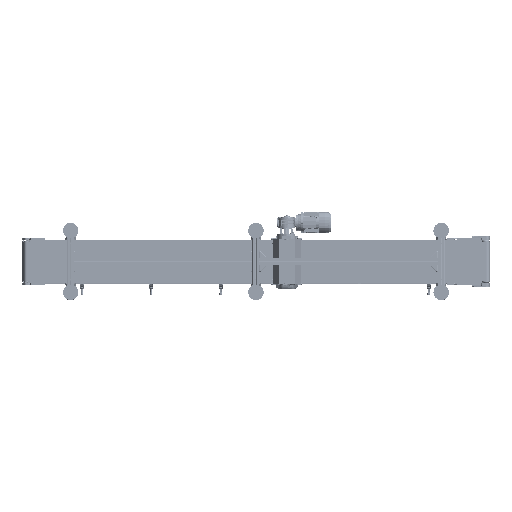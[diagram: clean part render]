
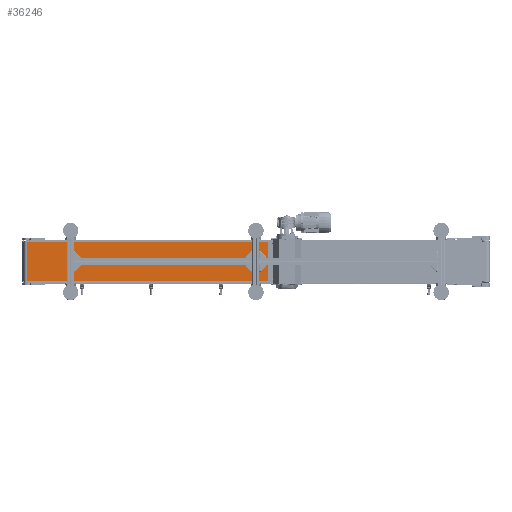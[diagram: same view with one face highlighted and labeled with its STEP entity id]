
A CAD part, front view. The second image highlights one B-rep face of the part: STEP entity #36246.
In plain terms, the highlighted planar face has unit normal (0, -1, 0).
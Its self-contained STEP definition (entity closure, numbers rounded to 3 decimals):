
#14788 = DIRECTION ( 'NONE',  ( 1., 0., 0. ) ) ;
#19598 = VERTEX_POINT ( 'NONE', #370650 ) ;
#20253 = CARTESIAN_POINT ( 'NONE',  ( -1488., -27., 125. ) ) ;
#36246 = ADVANCED_FACE ( 'NONE', ( #118273 ), #243487, .F. ) ;
#41892 = VERTEX_POINT ( 'NONE', #302900 ) ;
#65869 = DIRECTION ( 'NONE',  ( 0., 0., -1. ) ) ;
#77220 = VECTOR ( 'NONE', #202664, 1000. ) ;
#77414 = LINE ( 'NONE', #235519, #77220 ) ;
#79681 = CARTESIAN_POINT ( 'NONE',  ( -1488., -27., 125. ) ) ;
#100726 = LINE ( 'NONE', #217900, #117006 ) ;
#102654 = VECTOR ( 'NONE', #211132, 1000. ) ;
#111237 = LINE ( 'NONE', #394590, #154024 ) ;
#117006 = VECTOR ( 'NONE', #65869, 1000. ) ;
#118273 = FACE_OUTER_BOUND ( 'NONE', #244098, .T. ) ;
#122431 = VERTEX_POINT ( 'NONE', #233123 ) ;
#123521 = ORIENTED_EDGE ( 'NONE', *, *, #220712, .F. ) ;
#133819 = EDGE_CURVE ( 'NONE', #19598, #122431, #111237, .T. ) ;
#135404 = ORIENTED_EDGE ( 'NONE', *, *, #208972, .T. ) ;
#138560 = EDGE_CURVE ( 'NONE', #344102, #41892, #303541, .T. ) ;
#151137 = DIRECTION ( 'NONE',  ( 0., 1., 0. ) ) ;
#154024 = VECTOR ( 'NONE', #14788, 1000. ) ;
#202664 = DIRECTION ( 'NONE',  ( 0., 0., -1. ) ) ;
#207124 = ORIENTED_EDGE ( 'NONE', *, *, #138560, .F. ) ;
#208972 = EDGE_CURVE ( 'NONE', #344102, #19598, #100726, .T. ) ;
#211132 = DIRECTION ( 'NONE',  ( 1., 0., 0. ) ) ;
#217900 = CARTESIAN_POINT ( 'NONE',  ( -1488., -27., 125. ) ) ;
#220712 = EDGE_CURVE ( 'NONE', #41892, #122431, #77414, .T. ) ;
#233123 = CARTESIAN_POINT ( 'NONE',  ( 140., -27., -125. ) ) ;
#235519 = CARTESIAN_POINT ( 'NONE',  ( 140., -27., 125. ) ) ;
#243487 = PLANE ( 'NONE',  #309955 ) ;
#244098 = EDGE_LOOP ( 'NONE', ( #261376, #123521, #207124, #135404 ) ) ;
#261376 = ORIENTED_EDGE ( 'NONE', *, *, #133819, .T. ) ;
#276301 = DIRECTION ( 'NONE',  ( -1., 0., 0. ) ) ;
#302900 = CARTESIAN_POINT ( 'NONE',  ( 140., -27., 125. ) ) ;
#303541 = LINE ( 'NONE', #20253, #102654 ) ;
#309955 = AXIS2_PLACEMENT_3D ( 'NONE', #337989, #151137, #276301 ) ;
#337989 = CARTESIAN_POINT ( 'NONE',  ( -1488., -27., 125. ) ) ;
#344102 = VERTEX_POINT ( 'NONE', #79681 ) ;
#370650 = CARTESIAN_POINT ( 'NONE',  ( -1488., -27., -125. ) ) ;
#394590 = CARTESIAN_POINT ( 'NONE',  ( -1488., -27., -125. ) ) ;
